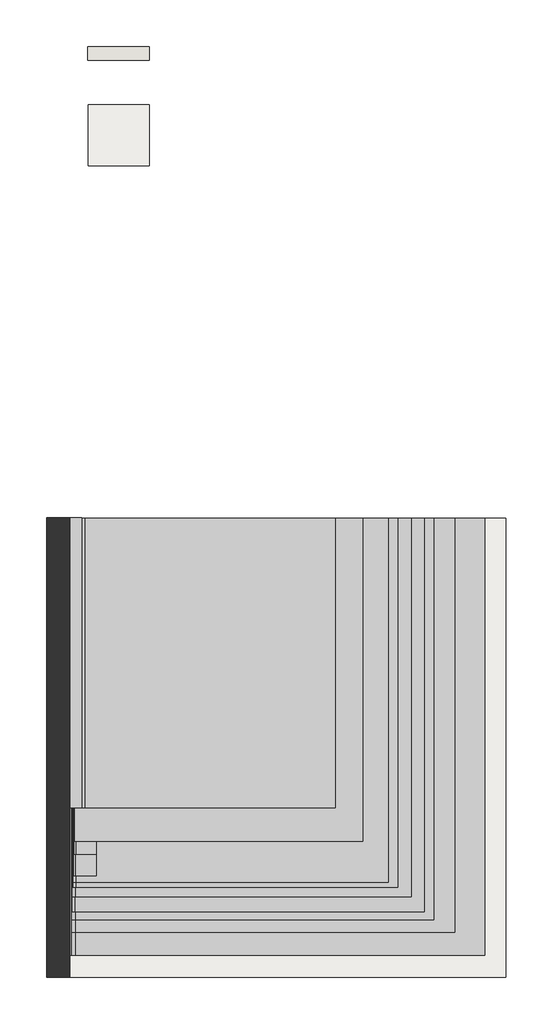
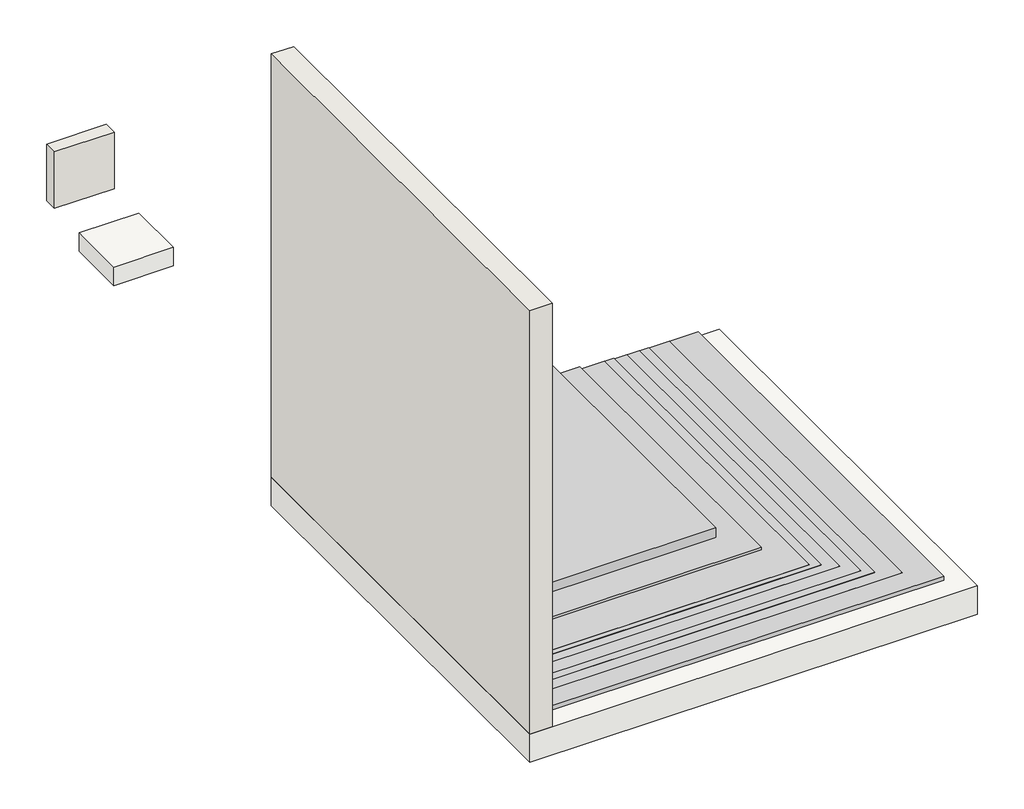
# One storey: 2 slabs, 2 walls, 1 proxy.
"""IFC4 building model written with IfcOpenShell, lengths in millimetres."""

from ifc_helpers import new_model, si_unit, frame, origin, place, context, project, spatial, polyline, outline, extrude, transform, mapped, element, save
from components import generic_models_e7e59d38

model = new_model("IFC4")

# Units and contexts
model_context = context("Model", 3, world=origin())
ifc_project = project(units=[si_unit("LENGTHUNIT", "METRE", prefix="MILLI")], contexts=[model_context])

# Site, building, storey
site = spatial("IfcSite", under=ifc_project)
building = spatial("IfcBuilding", under=site)
storey = spatial("IfcBuildingStorey", under=building, Name="ARQ Térreo", Elevation=-2.523798)

# Proxy
placement = place(None, origin())
generic_models_shape = generic_models_e7e59d38(model_context)
element("IfcBuildingElementProxy", 1, Name="IMPER:IMPER:433934 : IMPER:IMPER:433934", ObjectType="IMPER:IMPER:433934 : IMPER:IMPER:433934", at=placement, inside=storey, context=model_context, shape_type="MappedRepresentation", body=[
    mapped(generic_models_shape, transform((0.0, 0.0, 0.0), x_axis=(1.0, 0.0, 0.0), y_axis=(0.0, 1.0, 0.0), z_axis=(0.0, 0.0, 1.0))),
])

# Slabs
element("IfcSlab", 2, ObjectType="IMPH_T3AA+T4AA", at=placement, inside=storey, context=model_context, shape_type="SweptSolid", body=[
    extrude(outline(polyline([(-230.7952759, 2845.8700195), (169.2047241, 2845.8700195), (169.2047241, 2445.8700195), (-230.7952759, 2445.8700195), (-230.7952759, 2845.8700195)])), frame((0.0, 0.0, -133.523798), z_axis=(0.0, 0.0, 1.0), x_axis=(1.0, 0.0, 0.0)), (0.0, 0.0, 1.0), 131.0),
])
element("IfcSlab", 3, ObjectType="Piso:LAJE CONCRETO", at=placement, inside=storey, context=model_context, shape_type="SweptSolid", body=[
    extrude(outline(polyline([(-501.9704105, 145.8700195), (2498.0295895, 145.8700195), (2498.0295895, -2854.1299805), (-501.9704105, -2854.1299805), (-501.9704105, 145.8700195)])), frame((0.0, 0.0, -202.523798), z_axis=(0.0, 0.0, 1.0), x_axis=(1.0, 0.0, 0.0)), (0.0, 0.0, 1.0), 200.0),
])

# Walls
element("IfcWall", 4, ObjectType="Parede básica:Parede Concreto", at=placement, inside=storey, context=model_context, shape_type="SweptSolid", body=[
    extrude(outline(polyline([(-501.9704105, -2854.1299805), (-501.9704105, 145.8700195), (-351.9704105, 145.8700195), (-351.9704105, -2854.1299805), (-501.9704105, -2854.1299805)])), frame((0.0, 0.0, -2.523798), z_axis=(0.0, 0.0, 1.0), x_axis=(1.0, 0.0, 0.0)), (0.0, 0.0, 1.0), 3000.0),
])
element("IfcWall", 5, ObjectType="IMPV_T3PP+T4PP", at=placement, inside=storey, context=model_context, shape_type="SweptSolid", body=[
    extrude(outline(polyline([(-231.9056349, 3224.4180557), (168.0943651, 3224.4180557), (168.0943651, 3133.4180557), (-231.9056349, 3133.4180557), (-231.9056349, 3224.4180557)])), frame((0.0, 0.0, -2.523798), z_axis=(0.0, 0.0, 1.0), x_axis=(1.0, 0.0, 0.0)), (0.0, 0.0, 1.0), 400.0),
])

save(model, "model.ifc")
